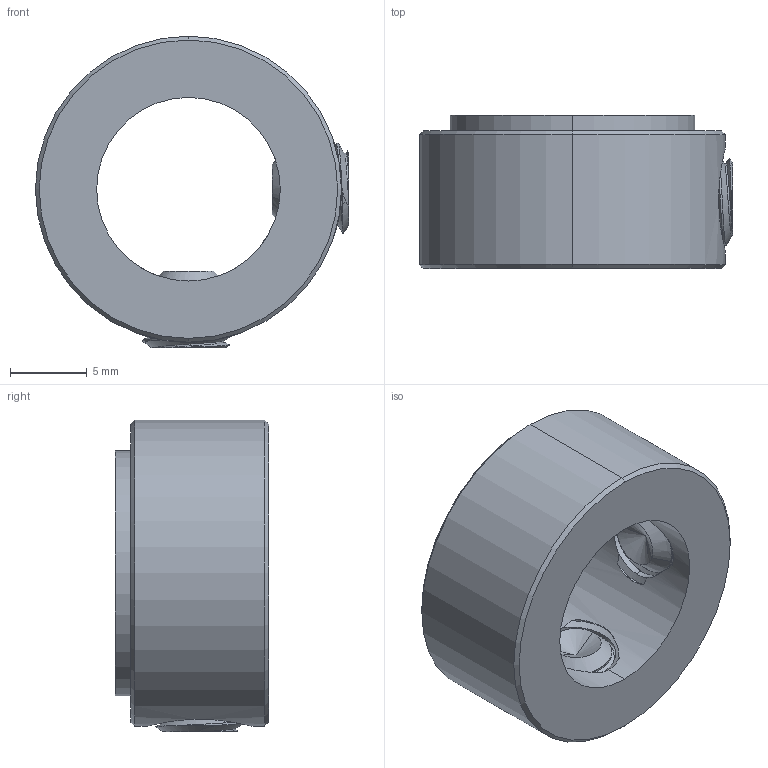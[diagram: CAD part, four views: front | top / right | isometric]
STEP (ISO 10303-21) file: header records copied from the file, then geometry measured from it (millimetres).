
FILE_DESCRIPTION (( 'STEP AP203' ), '1' );
FILE_NAME ('2920-0001-0012 assembly.STEP', '2021-02-19T22:31:03', ( '' ), ( '' ), 'SwSTEP 2.0', 'SolidWorks 2016', '' );
FILE_SCHEMA (( 'CONFIG_CONTROL_DESIGN' ));
Length unit declared in the file: millimetre
Products named in the file (3): 2920-0001-0012 assembly; 2806-0006-0005_91390A551; 2920-0001-0012
Assembly tree (3 placements, depth 2):
  2920-0001-0012 assembly
    2920-0001-0012
    2806-0006-0005_91390A551  x2
Bounding box: 20.46 x 10 x 20.36 mm (x, y, z)
Volume: 1865 mm3; surface area: 1839.7 mm2
Topology: 3 solids, 3 shells, 149 faces, 388 edges, 238 vertices
Faces by surface type: cylinder 64, cone 40, plane 29, bspline 16
Entity records: 17873 total; most frequent: CARTESIAN_POINT 15261, ORIENTED_EDGE 580, DIRECTION 376, EDGE_CURVE 290, VERTEX_POINT 185, AXIS2_PLACEMENT_3D 146, EDGE_LOOP 115, ADVANCED_FACE 109
